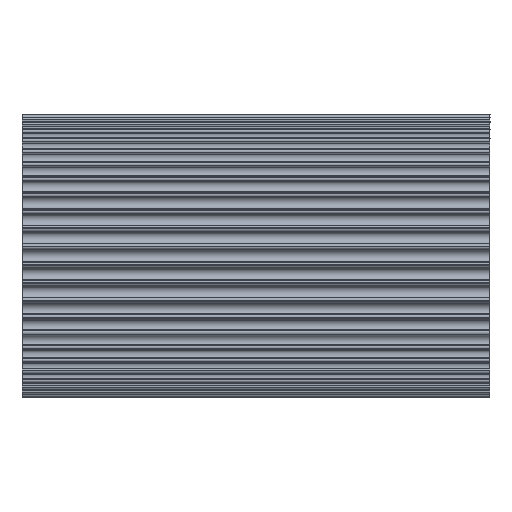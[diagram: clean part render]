
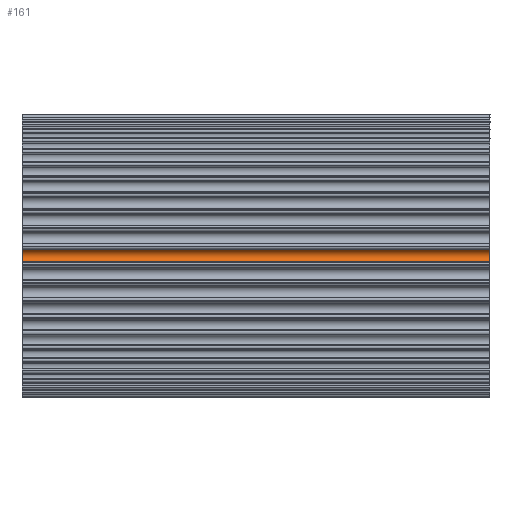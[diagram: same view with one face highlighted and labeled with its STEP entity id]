
A CAD part, top view. The second image highlights one B-rep face of the part: STEP entity #161.
In plain terms, the highlighted cylindrical face has radius 2.629 mm (diameter 5.258 mm), a partial arc.
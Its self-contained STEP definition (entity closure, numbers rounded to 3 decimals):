
#161 = ADVANCED_FACE( '', ( #538 ), #539, .F. );
#538 = FACE_OUTER_BOUND( '', #1118, .T. );
#539 = CYLINDRICAL_SURFACE( '', #1119, 2.629 );
#1118 = EDGE_LOOP( '', ( #2696, #2697, #2698, #2699 ) );
#1119 = AXIS2_PLACEMENT_3D( '', #2700, #2701, #2702 );
#2696 = ORIENTED_EDGE( '', *, *, #4493, .T. );
#2697 = ORIENTED_EDGE( '', *, *, #4795, .F. );
#2698 = ORIENTED_EDGE( '', *, *, #4348, .F. );
#2699 = ORIENTED_EDGE( '', *, *, #4794, .T. );
#2700 = CARTESIAN_POINT( '', ( 0., 0., 59.455 ) );
#2701 = DIRECTION( '', ( -1., 0., 0. ) );
#2702 = DIRECTION( '', ( 0., 1., 0. ) );
#4348 = EDGE_CURVE( '', #5432, #5434, #5435, .T. );
#4493 = EDGE_CURVE( '', #5718, #5716, #5719, .T. );
#4794 = EDGE_CURVE( '', #5432, #5718, #6234, .T. );
#4795 = EDGE_CURVE( '', #5434, #5716, #6235, .T. );
#5432 = VERTEX_POINT( '', #6949 );
#5434 = VERTEX_POINT( '', #6952 );
#5435 = CIRCLE( '', #6953, 2.629 );
#5716 = VERTEX_POINT( '', #7285 );
#5718 = VERTEX_POINT( '', #7288 );
#5719 = CIRCLE( '', #7289, 2.629 );
#6234 = LINE( '', #7960, #7961 );
#6235 = LINE( '', #7962, #7963 );
#6949 = CARTESIAN_POINT( '', ( 0., -2.553, 58.827 ) );
#6952 = CARTESIAN_POINT( '', ( 0., 2.553, 58.827 ) );
#6953 = AXIS2_PLACEMENT_3D( '', #8864, #8865, #8866 );
#7285 = CARTESIAN_POINT( '', ( 200., 2.553, 58.827 ) );
#7288 = CARTESIAN_POINT( '', ( 200., -2.553, 58.827 ) );
#7289 = AXIS2_PLACEMENT_3D( '', #9195, #9196, #9197 );
#7960 = CARTESIAN_POINT( '', ( 0., -2.553, 58.827 ) );
#7961 = VECTOR( '', #9786, 1000. );
#7962 = CARTESIAN_POINT( '', ( 0., 2.553, 58.827 ) );
#7963 = VECTOR( '', #9787, 1000. );
#8864 = CARTESIAN_POINT( '', ( 0., 0., 59.455 ) );
#8865 = DIRECTION( '', ( 1., 0., 0. ) );
#8866 = DIRECTION( '', ( 0., 1., 0. ) );
#9195 = CARTESIAN_POINT( '', ( 200., 0., 59.455 ) );
#9196 = DIRECTION( '', ( 1., 0., 0. ) );
#9197 = DIRECTION( '', ( 0., 1., 0. ) );
#9786 = DIRECTION( '', ( 1., 0., 0. ) );
#9787 = DIRECTION( '', ( 1., 0., 0. ) );
